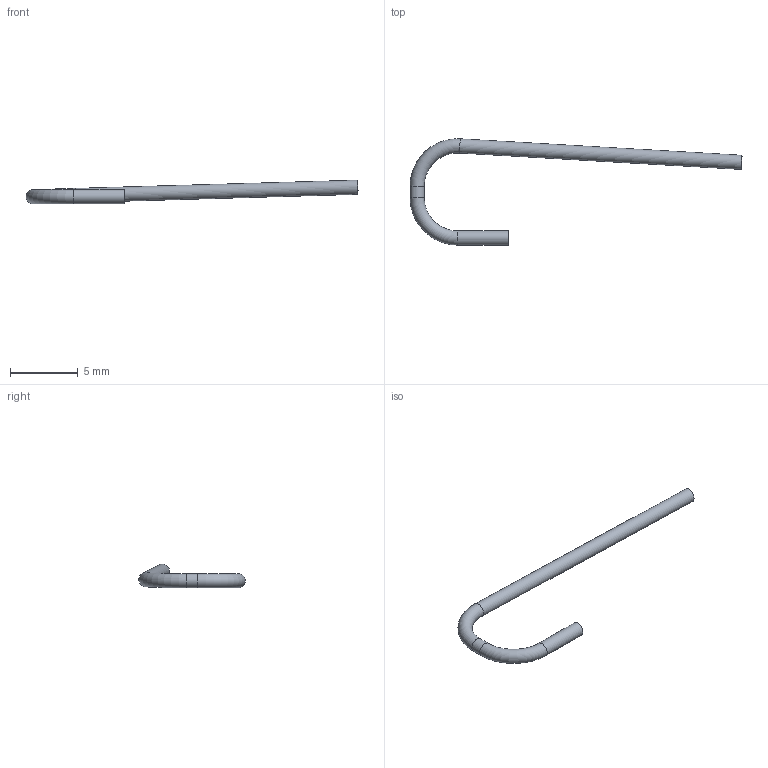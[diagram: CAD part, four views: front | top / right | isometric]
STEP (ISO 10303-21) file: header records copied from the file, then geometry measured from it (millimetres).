
FILE_DESCRIPTION(('Open CASCADE Model'),'2;1');
FILE_NAME('Open CASCADE Shape Model','2026-09-15T14:06:45',('Author'),( 'Open CASCADE'),'Open CASCADE STEP processor 7.7','Open CASCADE 7.7' ,'Unknown');
FILE_SCHEMA(('AUTOMOTIVE_DESIGN { 1 0 10303 214 1 1 1 1 }'));
Length unit declared in the file: millimetre
Products named in the file (1): J9_COMMON_BRANCH_4_OD1p05_R3
Bounding box: 24.56 x 7.86 x 1.75 mm (x, y, z)
Volume: 30.3 mm3; surface area: 117.3 mm2
Topology: 1 solids, 1 shells, 7 faces, 11 edges, 6 vertices
Faces by surface type: cylinder 3, torus 2, plane 2
Full cylindrical faces by diameter (mm): 1.05 x3
Entity records: 305 total; most frequent: CARTESIAN_POINT 56, DIRECTION 48, ORIENTED_EDGE 22, PCURVE 22, DEFINITIONAL_REPRESENTATION 22, AXIS2_PLACEMENT_3D 16, LINE 14, VECTOR 14
